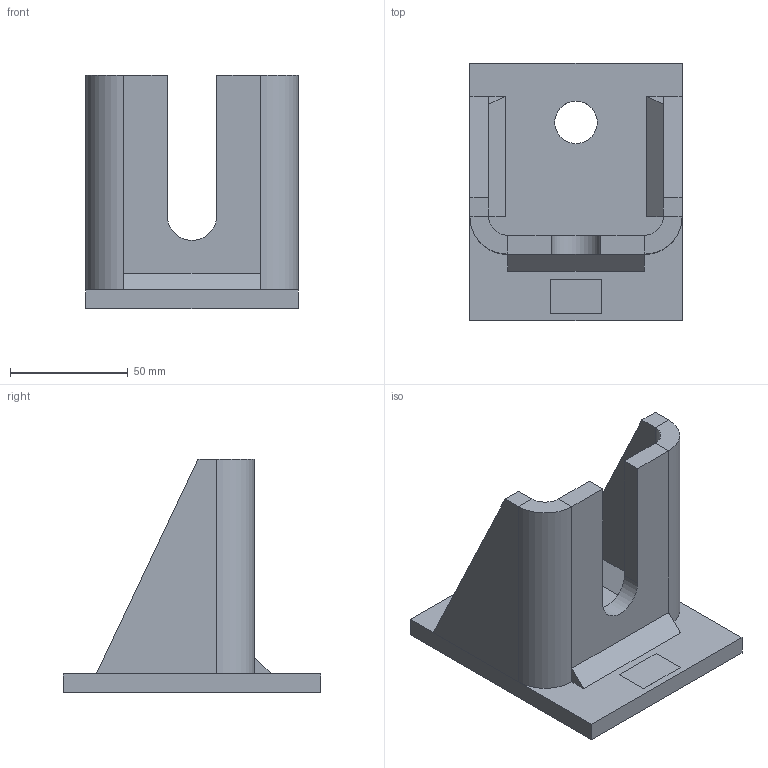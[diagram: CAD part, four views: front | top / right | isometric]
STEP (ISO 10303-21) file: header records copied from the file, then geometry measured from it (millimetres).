
FILE_DESCRIPTION(/* description */ ('Einfachkonsole Nr.4'),/* implementation_level */ '2;1');
FILE_NAME(/* name */ 'Q:\sge-ma\Produktmanagement-STB\STB\Workspace\stp\010335335.stp',/* time_stamp */ '2015-07-09T13:30:25+02:00',/* author */ ('avschreier'),/* organization */ (''),/* preprocessor_version */ 'ST-DEVELOPER v15.6',/* originating_system */ 'Autodesk Inventor 2015',/* authorisation */ '');
FILE_SCHEMA (('CONFIG_CONTROL_DESIGN'));
Length unit declared in the file: millimetre
Products named in the file (4): 010335335_Schweißnähte; 337000135; 337000218; 010335335
Bounding box: 90 x 109 x 99 mm (x, y, z)
Volume: 181617.4 mm3; surface area: 57150.3 mm2
Topology: 5 solids, 5 shells, 53 faces, 110 edges, 68 vertices
Faces by surface type: plane 47, cylinder 6
Full cylindrical faces by diameter (mm): 18 x1
Entity records: 1467 total; most frequent: DIRECTION 241, CARTESIAN_POINT 237, ORIENTED_EDGE 218, EDGE_CURVE 109, LINE 97, VECTOR 97, AXIS2_PLACEMENT_3D 72, VERTEX_POINT 68
